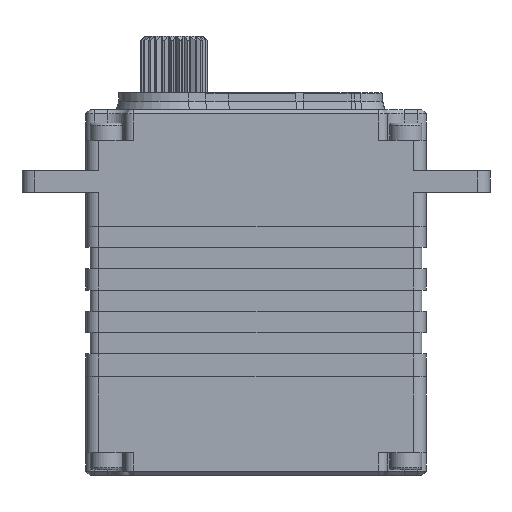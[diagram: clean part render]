
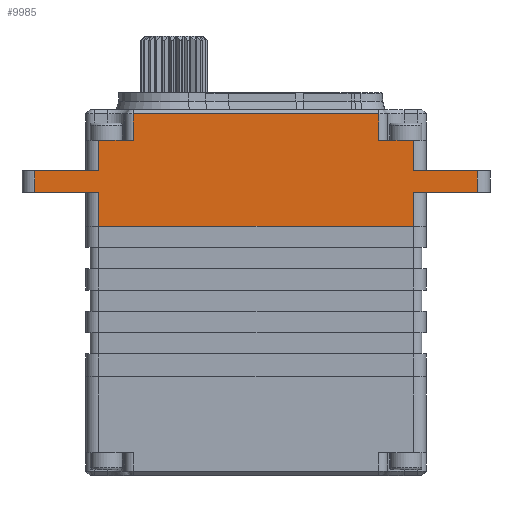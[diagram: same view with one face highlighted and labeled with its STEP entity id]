
A CAD part, front view. The second image highlights one B-rep face of the part: STEP entity #9985.
In plain terms, the highlighted planar face has unit normal (0, -1, 0).
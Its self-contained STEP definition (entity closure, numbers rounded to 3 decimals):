
#380 = ORIENTED_EDGE ( 'NONE', *, *, #8009, .T. ) ;
#480 = ORIENTED_EDGE ( 'NONE', *, *, #8836, .F. ) ;
#706 = CARTESIAN_POINT ( 'NONE',  ( -88.182, -22.699, 10.85 ) ) ;
#859 = VECTOR ( 'NONE', #19033, 1000. ) ;
#975 = LINE ( 'NONE', #27228, #15921 ) ;
#1124 = VERTEX_POINT ( 'NONE', #7759 ) ;
#1255 = ORIENTED_EDGE ( 'NONE', *, *, #14650, .T. ) ;
#1433 = VERTEX_POINT ( 'NONE', #16252 ) ;
#1685 = DIRECTION ( 'NONE',  ( 0., 0., 1. ) ) ;
#1883 = EDGE_CURVE ( 'NONE', #8604, #4099, #18928, .T. ) ;
#1902 = CARTESIAN_POINT ( 'NONE',  ( -88.182, -22.699, 16.95 ) ) ;
#1928 = ORIENTED_EDGE ( 'NONE', *, *, #23218, .T. ) ;
#2290 = EDGE_CURVE ( 'NONE', #26503, #8604, #975, .T. ) ;
#2385 = VECTOR ( 'NONE', #17343, 1000. ) ;
#2609 = CARTESIAN_POINT ( 'NONE',  ( -121.082, -22.699, 16.95 ) ) ;
#3155 = LINE ( 'NONE', #19034, #6509 ) ;
#3395 = VERTEX_POINT ( 'NONE', #20328 ) ;
#3573 = LINE ( 'NONE', #14539, #16819 ) ;
#4099 = VERTEX_POINT ( 'NONE', #27027 ) ;
#4117 = CARTESIAN_POINT ( 'NONE',  ( -80.682, -22.699, 13.35 ) ) ;
#4308 = FACE_OUTER_BOUND ( 'NONE', #8787, .T. ) ;
#4483 = CARTESIAN_POINT ( 'NONE',  ( -78.082, -22.699, 16.95 ) ) ;
#4571 = CARTESIAN_POINT ( 'NONE',  ( -88.182, -22.699, 6.85 ) ) ;
#5079 = LINE ( 'NONE', #17720, #2385 ) ;
#5893 = CARTESIAN_POINT ( 'NONE',  ( -88.182, -22.699, 6.85 ) ) ;
#6202 = EDGE_CURVE ( 'NONE', #3395, #23011, #11452, .T. ) ;
#6348 = DIRECTION ( 'NONE',  ( -1., 0., 0. ) ) ;
#6368 = CARTESIAN_POINT ( 'NONE',  ( -78.082, -22.699, 7.765 ) ) ;
#6469 = ORIENTED_EDGE ( 'NONE', *, *, #6674, .F. ) ;
#6509 = VECTOR ( 'NONE', #8422, 1000. ) ;
#6674 = EDGE_CURVE ( 'NONE', #26694, #10767, #5079, .T. ) ;
#6824 = EDGE_CURVE ( 'NONE', #21477, #1433, #24922, .T. ) ;
#6897 = ORIENTED_EDGE ( 'NONE', *, *, #1883, .T. ) ;
#7309 = CARTESIAN_POINT ( 'NONE',  ( -78.082, -22.699, 16.95 ) ) ;
#7367 = DIRECTION ( 'NONE',  ( 0., 0., -1. ) ) ;
#7759 = CARTESIAN_POINT ( 'NONE',  ( -125.182, -22.699, 16.95 ) ) ;
#7877 = VERTEX_POINT ( 'NONE', #15512 ) ;
#7943 = CARTESIAN_POINT ( 'NONE',  ( -121.082, -22.699, 7.765 ) ) ;
#8009 = EDGE_CURVE ( 'NONE', #17089, #7877, #12533, .T. ) ;
#8204 = AXIS2_PLACEMENT_3D ( 'NONE', #6368, #20827, #1685 ) ;
#8422 = DIRECTION ( 'NONE',  ( 1., 0., 0. ) ) ;
#8537 = ORIENTED_EDGE ( 'NONE', *, *, #6202, .F. ) ;
#8604 = VERTEX_POINT ( 'NONE', #17926 ) ;
#8787 = EDGE_LOOP ( 'NONE', ( #24840, #6897, #13357, #27046, #1928, #21780, #18022, #480, #380, #20962, #13104, #6469, #22270, #8537, #1255, #22561 ) ) ;
#8836 = EDGE_CURVE ( 'NONE', #17089, #1433, #10731, .T. ) ;
#9583 = DIRECTION ( 'NONE',  ( 0., 0., 1. ) ) ;
#9985 = ADVANCED_FACE ( 'NONE', ( #4308 ), #16903, .T. ) ;
#10007 = LINE ( 'NONE', #17557, #17615 ) ;
#10731 = LINE ( 'NONE', #14913, #21950 ) ;
#10767 = VERTEX_POINT ( 'NONE', #706 ) ;
#10857 = LINE ( 'NONE', #12858, #859 ) ;
#11150 = DIRECTION ( 'NONE',  ( -1., 0., 0. ) ) ;
#11376 = DIRECTION ( 'NONE',  ( -1., 0., 0. ) ) ;
#11452 = LINE ( 'NONE', #22249, #13097 ) ;
#11827 = CARTESIAN_POINT ( 'NONE',  ( -80.682, -22.699, 10.85 ) ) ;
#11837 = LINE ( 'NONE', #4571, #20414 ) ;
#12016 = CARTESIAN_POINT ( 'NONE',  ( -78.082, -22.699, 20.05 ) ) ;
#12533 = LINE ( 'NONE', #18135, #19144 ) ;
#12858 = CARTESIAN_POINT ( 'NONE',  ( -125.182, -22.699, 7.765 ) ) ;
#13092 = EDGE_CURVE ( 'NONE', #27132, #7877, #11837, .T. ) ;
#13097 = VECTOR ( 'NONE', #21879, 1000. ) ;
#13104 = ORIENTED_EDGE ( 'NONE', *, *, #20541, .T. ) ;
#13357 = ORIENTED_EDGE ( 'NONE', *, *, #23548, .T. ) ;
#14058 = LINE ( 'NONE', #22218, #16351 ) ;
#14131 = VECTOR ( 'NONE', #14378, 1000. ) ;
#14378 = DIRECTION ( 'NONE',  ( 0., 0., -1. ) ) ;
#14539 = CARTESIAN_POINT ( 'NONE',  ( -80.682, -22.699, 21.05 ) ) ;
#14650 = EDGE_CURVE ( 'NONE', #3395, #20729, #10007, .T. ) ;
#14699 = CARTESIAN_POINT ( 'NONE',  ( -125.182, -22.699, 13.35 ) ) ;
#14913 = CARTESIAN_POINT ( 'NONE',  ( -124.732, -22.699, 10.85 ) ) ;
#15512 = CARTESIAN_POINT ( 'NONE',  ( -125.182, -22.699, 6.85 ) ) ;
#15567 = EDGE_CURVE ( 'NONE', #23011, #26694, #3573, .T. ) ;
#15587 = DIRECTION ( 'NONE',  ( 0., 0., 1. ) ) ;
#15764 = CARTESIAN_POINT ( 'NONE',  ( -92.282, -22.699, 16.95 ) ) ;
#15875 = CARTESIAN_POINT ( 'NONE',  ( -132.682, -22.699, 13.35 ) ) ;
#15921 = VECTOR ( 'NONE', #18814, 1000. ) ;
#16252 = CARTESIAN_POINT ( 'NONE',  ( -132.682, -22.699, 10.85 ) ) ;
#16351 = VECTOR ( 'NONE', #9583, 1000. ) ;
#16770 = VERTEX_POINT ( 'NONE', #14699 ) ;
#16819 = VECTOR ( 'NONE', #23288, 1000. ) ;
#16903 = PLANE ( 'NONE',  #8204 ) ;
#17089 = VERTEX_POINT ( 'NONE', #19528 ) ;
#17343 = DIRECTION ( 'NONE',  ( -1., 0., 0. ) ) ;
#17516 = VERTEX_POINT ( 'NONE', #2609 ) ;
#17557 = CARTESIAN_POINT ( 'NONE',  ( -88.182, -22.699, 7.765 ) ) ;
#17615 = VECTOR ( 'NONE', #15587, 1000. ) ;
#17720 = CARTESIAN_POINT ( 'NONE',  ( -78.732, -22.699, 10.85 ) ) ;
#17926 = CARTESIAN_POINT ( 'NONE',  ( -92.282, -22.699, 20.05 ) ) ;
#18022 = ORIENTED_EDGE ( 'NONE', *, *, #6824, .T. ) ;
#18135 = CARTESIAN_POINT ( 'NONE',  ( -125.182, -22.699, 7.765 ) ) ;
#18814 = DIRECTION ( 'NONE',  ( 0., 0., 1. ) ) ;
#18928 = LINE ( 'NONE', #12016, #20583 ) ;
#19033 = DIRECTION ( 'NONE',  ( 0., 0., -1. ) ) ;
#19034 = CARTESIAN_POINT ( 'NONE',  ( -134.632, -22.699, 13.35 ) ) ;
#19144 = VECTOR ( 'NONE', #20243, 1000. ) ;
#19528 = CARTESIAN_POINT ( 'NONE',  ( -125.182, -22.699, 10.85 ) ) ;
#19757 = LINE ( 'NONE', #7943, #14131 ) ;
#20085 = LINE ( 'NONE', #4483, #22352 ) ;
#20243 = DIRECTION ( 'NONE',  ( 0., 0., -1. ) ) ;
#20328 = CARTESIAN_POINT ( 'NONE',  ( -88.182, -22.699, 13.35 ) ) ;
#20414 = VECTOR ( 'NONE', #6348, 1000. ) ;
#20541 = EDGE_CURVE ( 'NONE', #27132, #10767, #14058, .T. ) ;
#20583 = VECTOR ( 'NONE', #26869, 1000. ) ;
#20729 = VERTEX_POINT ( 'NONE', #1902 ) ;
#20827 = DIRECTION ( 'NONE',  ( 0., -1., 0. ) ) ;
#20962 = ORIENTED_EDGE ( 'NONE', *, *, #13092, .F. ) ;
#21477 = VERTEX_POINT ( 'NONE', #15875 ) ;
#21616 = LINE ( 'NONE', #7309, #22286 ) ;
#21780 = ORIENTED_EDGE ( 'NONE', *, *, #26302, .F. ) ;
#21879 = DIRECTION ( 'NONE',  ( 1., 0., 0. ) ) ;
#21950 = VECTOR ( 'NONE', #27504, 1000. ) ;
#22218 = CARTESIAN_POINT ( 'NONE',  ( -88.182, -22.699, 7.765 ) ) ;
#22249 = CARTESIAN_POINT ( 'NONE',  ( -88.632, -22.699, 13.35 ) ) ;
#22270 = ORIENTED_EDGE ( 'NONE', *, *, #15567, .F. ) ;
#22286 = VECTOR ( 'NONE', #11376, 1000. ) ;
#22352 = VECTOR ( 'NONE', #11150, 1000. ) ;
#22561 = ORIENTED_EDGE ( 'NONE', *, *, #26382, .T. ) ;
#23011 = VERTEX_POINT ( 'NONE', #4117 ) ;
#23218 = EDGE_CURVE ( 'NONE', #1124, #16770, #10857, .T. ) ;
#23288 = DIRECTION ( 'NONE',  ( 0., 0., -1. ) ) ;
#23548 = EDGE_CURVE ( 'NONE', #4099, #17516, #19757, .T. ) ;
#23574 = VECTOR ( 'NONE', #7367, 1000. ) ;
#24356 = EDGE_CURVE ( 'NONE', #17516, #1124, #21616, .T. ) ;
#24840 = ORIENTED_EDGE ( 'NONE', *, *, #2290, .T. ) ;
#24922 = LINE ( 'NONE', #26025, #23574 ) ;
#26025 = CARTESIAN_POINT ( 'NONE',  ( -132.682, -22.699, 7.765 ) ) ;
#26302 = EDGE_CURVE ( 'NONE', #21477, #16770, #3155, .T. ) ;
#26382 = EDGE_CURVE ( 'NONE', #20729, #26503, #20085, .T. ) ;
#26503 = VERTEX_POINT ( 'NONE', #15764 ) ;
#26694 = VERTEX_POINT ( 'NONE', #11827 ) ;
#26869 = DIRECTION ( 'NONE',  ( -1., 0., 0. ) ) ;
#27027 = CARTESIAN_POINT ( 'NONE',  ( -121.082, -22.699, 20.05 ) ) ;
#27046 = ORIENTED_EDGE ( 'NONE', *, *, #24356, .T. ) ;
#27132 = VERTEX_POINT ( 'NONE', #5893 ) ;
#27228 = CARTESIAN_POINT ( 'NONE',  ( -92.282, -22.699, 7.765 ) ) ;
#27504 = DIRECTION ( 'NONE',  ( -1., 0., 0. ) ) ;
